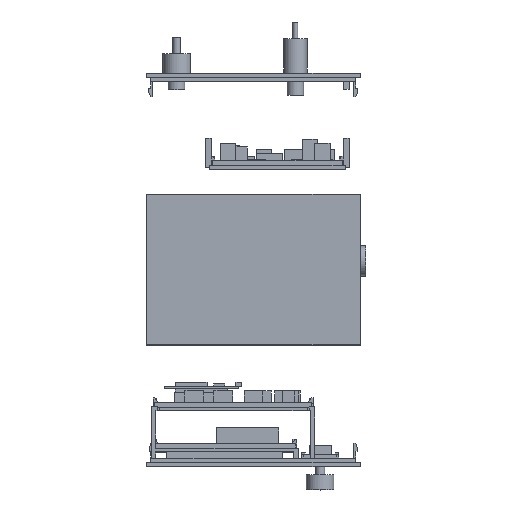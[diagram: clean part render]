
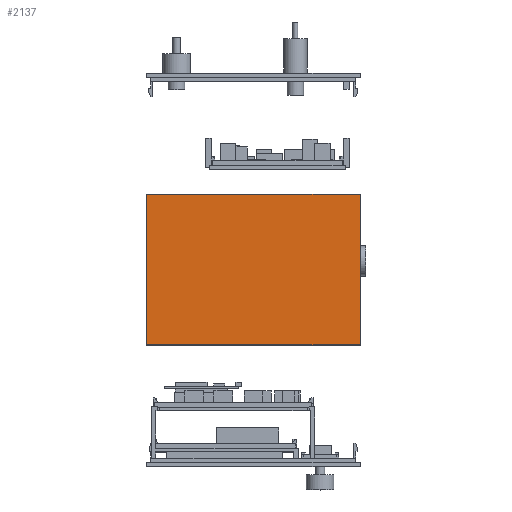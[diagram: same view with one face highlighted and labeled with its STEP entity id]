
A CAD part, top view. The second image highlights one B-rep face of the part: STEP entity #2137.
In plain terms, the highlighted planar face has unit normal (0, 0, 1).
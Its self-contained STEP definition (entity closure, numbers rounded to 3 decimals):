
#446 = VERTEX_POINT('',#447);
#447 = CARTESIAN_POINT('',(0.,3.,100.));
#454 = PLANE('',#455);
#455 = AXIS2_PLACEMENT_3D('',#456,#457,#458);
#456 = CARTESIAN_POINT('',(0.,3.,0.));
#457 = DIRECTION('',(1.,0.,0.));
#458 = DIRECTION('',(0.,0.,1.));
#466 = PLANE('',#467);
#467 = AXIS2_PLACEMENT_3D('',#468,#469,#470);
#468 = CARTESIAN_POINT('',(0.,3.,0.));
#469 = DIRECTION('',(0.,1.,0.));
#470 = DIRECTION('',(0.,0.,1.));
#507 = VERTEX_POINT('',#508);
#508 = CARTESIAN_POINT('',(0.,112.,100.));
#522 = PLANE('',#523);
#523 = AXIS2_PLACEMENT_3D('',#524,#525,#526);
#524 = CARTESIAN_POINT('',(0.,112.,0.));
#525 = DIRECTION('',(0.,1.,0.));
#526 = DIRECTION('',(0.,0.,1.));
#534 = EDGE_CURVE('',#446,#507,#535,.T.);
#535 = SURFACE_CURVE('',#536,(#540,#547),.PCURVE_S1.);
#536 = LINE('',#537,#538);
#537 = CARTESIAN_POINT('',(0.,3.,100.));
#538 = VECTOR('',#539,1.);
#539 = DIRECTION('',(0.,1.,0.));
#540 = PCURVE('',#454,#541);
#541 = DEFINITIONAL_REPRESENTATION('',(#542),#546);
#542 = LINE('',#543,#544);
#543 = CARTESIAN_POINT('',(100.,0.));
#544 = VECTOR('',#545,1.);
#545 = DIRECTION('',(0.,-1.));
#546 = ( GEOMETRIC_REPRESENTATION_CONTEXT(2) 
PARAMETRIC_REPRESENTATION_CONTEXT() REPRESENTATION_CONTEXT('2D SPACE',''
  ) );
#547 = PCURVE('',#548,#553);
#548 = PLANE('',#549);
#549 = AXIS2_PLACEMENT_3D('',#550,#551,#552);
#550 = CARTESIAN_POINT('',(0.,3.,100.));
#551 = DIRECTION('',(0.,0.,1.));
#552 = DIRECTION('',(1.,0.,0.));
#553 = DEFINITIONAL_REPRESENTATION('',(#554),#558);
#554 = LINE('',#555,#556);
#555 = CARTESIAN_POINT('',(0.,0.));
#556 = VECTOR('',#557,1.);
#557 = DIRECTION('',(0.,1.));
#558 = ( GEOMETRIC_REPRESENTATION_CONTEXT(2) 
PARAMETRIC_REPRESENTATION_CONTEXT() REPRESENTATION_CONTEXT('2D SPACE',''
  ) );
#1975 = EDGE_CURVE('',#446,#1976,#1978,.T.);
#1976 = VERTEX_POINT('',#1977);
#1977 = CARTESIAN_POINT('',(155.,3.,100.));
#1978 = SURFACE_CURVE('',#1979,(#1983,#1990),.PCURVE_S1.);
#1979 = LINE('',#1980,#1981);
#1980 = CARTESIAN_POINT('',(0.,3.,100.));
#1981 = VECTOR('',#1982,1.);
#1982 = DIRECTION('',(1.,0.,0.));
#1983 = PCURVE('',#466,#1984);
#1984 = DEFINITIONAL_REPRESENTATION('',(#1985),#1989);
#1985 = LINE('',#1986,#1987);
#1986 = CARTESIAN_POINT('',(100.,0.));
#1987 = VECTOR('',#1988,1.);
#1988 = DIRECTION('',(0.,1.));
#1989 = ( GEOMETRIC_REPRESENTATION_CONTEXT(2) 
PARAMETRIC_REPRESENTATION_CONTEXT() REPRESENTATION_CONTEXT('2D SPACE',''
  ) );
#1990 = PCURVE('',#548,#1991);
#1991 = DEFINITIONAL_REPRESENTATION('',(#1992),#1996);
#1992 = LINE('',#1993,#1994);
#1993 = CARTESIAN_POINT('',(0.,0.));
#1994 = VECTOR('',#1995,1.);
#1995 = DIRECTION('',(1.,0.));
#1996 = ( GEOMETRIC_REPRESENTATION_CONTEXT(2) 
PARAMETRIC_REPRESENTATION_CONTEXT() REPRESENTATION_CONTEXT('2D SPACE',''
  ) );
#2012 = PLANE('',#2013);
#2013 = AXIS2_PLACEMENT_3D('',#2014,#2015,#2016);
#2014 = CARTESIAN_POINT('',(155.,3.,0.));
#2015 = DIRECTION('',(1.,0.,0.));
#2016 = DIRECTION('',(0.,0.,1.));
#2137 = ADVANCED_FACE('',(#2138),#548,.T.);
#2138 = FACE_BOUND('',#2139,.T.);
#2139 = EDGE_LOOP('',(#2140,#2141,#2142,#2165));
#2140 = ORIENTED_EDGE('',*,*,#534,.F.);
#2141 = ORIENTED_EDGE('',*,*,#1975,.T.);
#2142 = ORIENTED_EDGE('',*,*,#2143,.T.);
#2143 = EDGE_CURVE('',#1976,#2144,#2146,.T.);
#2144 = VERTEX_POINT('',#2145);
#2145 = CARTESIAN_POINT('',(155.,112.,100.));
#2146 = SURFACE_CURVE('',#2147,(#2151,#2158),.PCURVE_S1.);
#2147 = LINE('',#2148,#2149);
#2148 = CARTESIAN_POINT('',(155.,3.,100.));
#2149 = VECTOR('',#2150,1.);
#2150 = DIRECTION('',(0.,1.,0.));
#2151 = PCURVE('',#548,#2152);
#2152 = DEFINITIONAL_REPRESENTATION('',(#2153),#2157);
#2153 = LINE('',#2154,#2155);
#2154 = CARTESIAN_POINT('',(155.,0.));
#2155 = VECTOR('',#2156,1.);
#2156 = DIRECTION('',(0.,1.));
#2157 = ( GEOMETRIC_REPRESENTATION_CONTEXT(2) 
PARAMETRIC_REPRESENTATION_CONTEXT() REPRESENTATION_CONTEXT('2D SPACE',''
  ) );
#2158 = PCURVE('',#2012,#2159);
#2159 = DEFINITIONAL_REPRESENTATION('',(#2160),#2164);
#2160 = LINE('',#2161,#2162);
#2161 = CARTESIAN_POINT('',(100.,0.));
#2162 = VECTOR('',#2163,1.);
#2163 = DIRECTION('',(0.,-1.));
#2164 = ( GEOMETRIC_REPRESENTATION_CONTEXT(2) 
PARAMETRIC_REPRESENTATION_CONTEXT() REPRESENTATION_CONTEXT('2D SPACE',''
  ) );
#2165 = ORIENTED_EDGE('',*,*,#2166,.F.);
#2166 = EDGE_CURVE('',#507,#2144,#2167,.T.);
#2167 = SURFACE_CURVE('',#2168,(#2172,#2179),.PCURVE_S1.);
#2168 = LINE('',#2169,#2170);
#2169 = CARTESIAN_POINT('',(0.,112.,100.));
#2170 = VECTOR('',#2171,1.);
#2171 = DIRECTION('',(1.,0.,0.));
#2172 = PCURVE('',#548,#2173);
#2173 = DEFINITIONAL_REPRESENTATION('',(#2174),#2178);
#2174 = LINE('',#2175,#2176);
#2175 = CARTESIAN_POINT('',(0.,109.));
#2176 = VECTOR('',#2177,1.);
#2177 = DIRECTION('',(1.,0.));
#2178 = ( GEOMETRIC_REPRESENTATION_CONTEXT(2) 
PARAMETRIC_REPRESENTATION_CONTEXT() REPRESENTATION_CONTEXT('2D SPACE',''
  ) );
#2179 = PCURVE('',#522,#2180);
#2180 = DEFINITIONAL_REPRESENTATION('',(#2181),#2185);
#2181 = LINE('',#2182,#2183);
#2182 = CARTESIAN_POINT('',(100.,0.));
#2183 = VECTOR('',#2184,1.);
#2184 = DIRECTION('',(0.,1.));
#2185 = ( GEOMETRIC_REPRESENTATION_CONTEXT(2) 
PARAMETRIC_REPRESENTATION_CONTEXT() REPRESENTATION_CONTEXT('2D SPACE',''
  ) );
